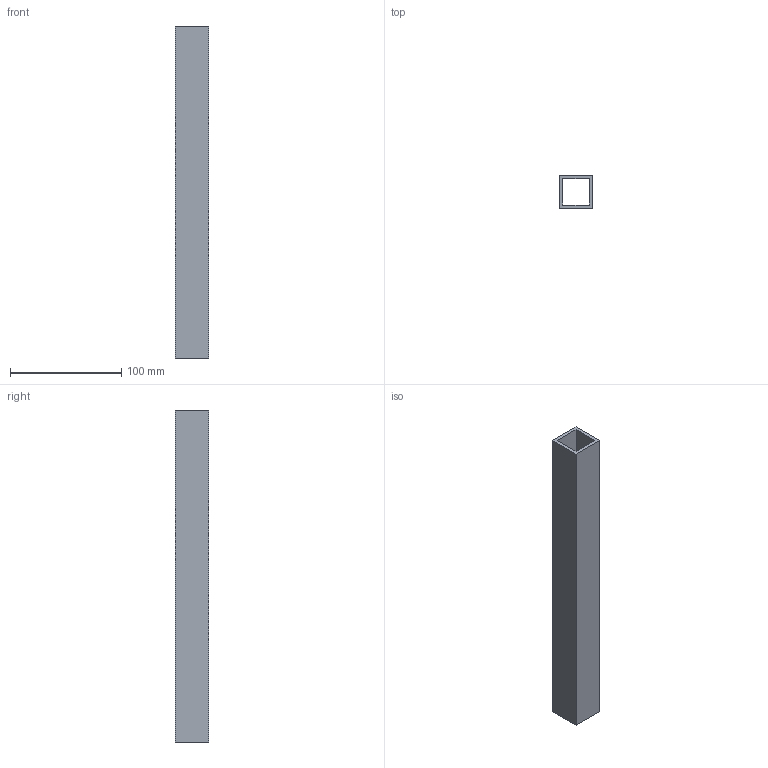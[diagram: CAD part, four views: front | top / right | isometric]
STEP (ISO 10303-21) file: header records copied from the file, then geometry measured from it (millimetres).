
FILE_DESCRIPTION(('Open CASCADE Model'),'2;1');
FILE_NAME('Open CASCADE Shape Model','2026-10-04T01:02:28',('Author'),( 'Open CASCADE'),'Open CASCADE STEP processor 8.0','Open CASCADE 8.0' ,'Unknown');
FILE_SCHEMA(('AUTOMOTIVE_DESIGN { 1 0 10303 214 1 1 1 1 }'));
Length unit declared in the file: millimetre
Products named in the file (1): Open CASCADE STEP translator 8.0 125
Bounding box: 30 x 30 x 299 mm (x, y, z)
Volume: 96876 mm3; surface area: 65232 mm2
Topology: 1 solids, 1 shells, 10 faces, 24 edges, 16 vertices
Faces by surface type: plane 10
Entity records: 598 total; most frequent: CARTESIAN_POINT 115, DIRECTION 78, LINE 56, VECTOR 56, ORIENTED_EDGE 48, PCURVE 48, DEFINITIONAL_REPRESENTATION 48, EDGE_CURVE 24
